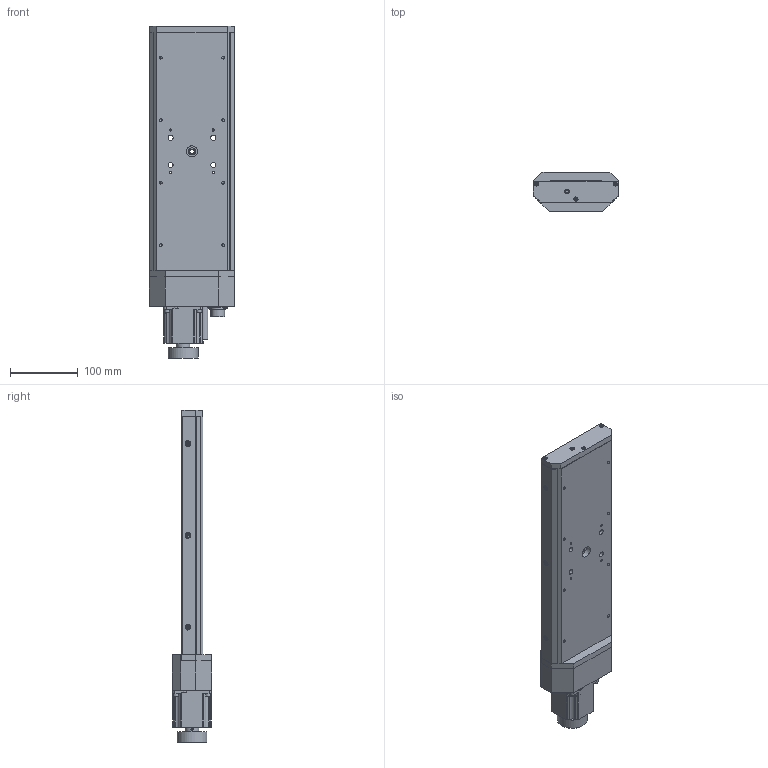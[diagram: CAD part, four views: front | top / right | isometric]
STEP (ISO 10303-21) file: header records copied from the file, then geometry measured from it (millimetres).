
FILE_DESCRIPTION((''),'2;1');
FILE_NAME('C:\Axmo\Axmo autodesk\Designs\Standard\1153 tmf\TMF3-200.stp','2011-09-13T16:11:20',('AXMOBE'),(''),'Autodesk Inventor 2011','Autodesk Inventor 2011','');
FILE_SCHEMA(('AUTOMOTIVE_DESIGN { 1 2 10303 214 0 1 1 1 }'));
Length unit declared in the file: millimetre
Products named in the file (1): 1153 03 ENS 000-200_Enveloppe_1
Bounding box: 125.1 x 58 x 488.5 mm (x, y, z)
Volume: 1210423.4 mm3; surface area: 387053.4 mm2
Topology: 1 solids, 71 shells, 2024 faces, 4955 edges, 3197 vertices
Faces by surface type: plane 1126, cylinder 533, cone 208, torus 79, bspline 62, sphere 16
Full cylindrical faces by diameter (mm): 1 x10, 1.567 x2, 2.013 x22, 2.1 x2, 2.25 x2, 2.459 x82, 2.5 x2, 2.693 x4, 2.8 x2, 3 x27, 3.242 x53, 3.5 x16, 4 x8, 4.134 x8, 4.5 x1, 4.917 x8, 5 x5, 5.5 x20, 5.54 x6, 6 x49, 6.2 x1, 6.35 x3, 6.459 x2, 6.5 x1, 7 x12, 7.5 x16, 8 x2, 9 x1, 10 x4, 10.5 x1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
Entity records: 56913 total; most frequent: CARTESIAN_POINT 12231, DIRECTION 8760, ORIENTED_EDGE 7836, EDGE_CURVE 3918, AXIS2_PLACEMENT_3D 3326, EDGE_LOOP 2980, VERTEX_POINT 2830, VECTOR 2108
